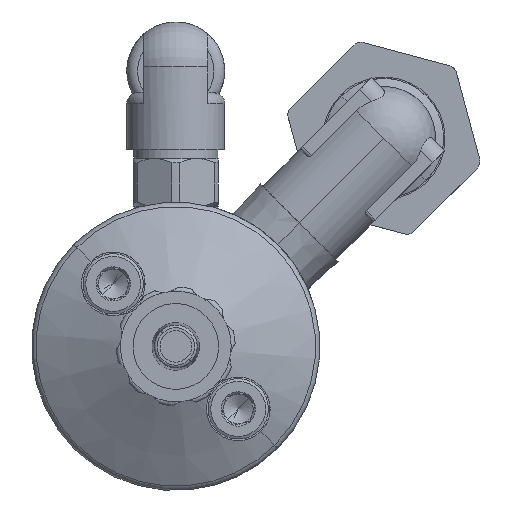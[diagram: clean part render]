
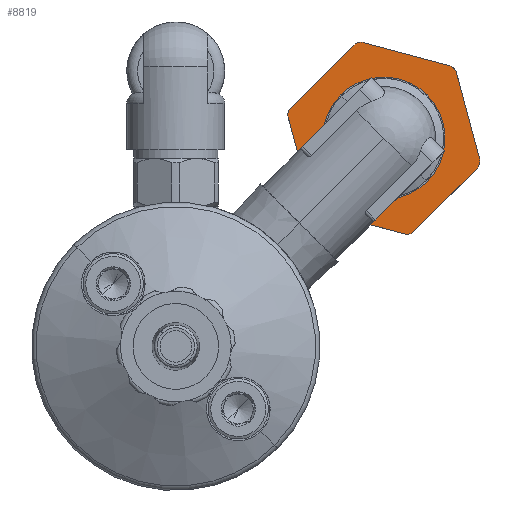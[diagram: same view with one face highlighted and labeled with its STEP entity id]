
A CAD part, front view. The second image highlights one B-rep face of the part: STEP entity #8819.
In plain terms, the highlighted planar face has unit normal (0, -1, 0).
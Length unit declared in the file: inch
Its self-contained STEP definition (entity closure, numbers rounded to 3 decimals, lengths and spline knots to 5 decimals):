
#714 = ORIENTED_EDGE ( 'NONE', *, *, #77586, .T. ) ;
#1691 = CIRCLE ( 'NONE', #79072, 0.035 ) ;
#2119 = DIRECTION ( 'NONE',  ( 0.259, 0., -0.966 ) ) ;
#2822 = CARTESIAN_POINT ( 'NONE',  ( 0.86072, 0.071, 0.40818 ) ) ;
#3400 = CARTESIAN_POINT ( 'NONE',  ( 0.60599, 0.071, 0.92419 ) ) ;
#3852 = CARTESIAN_POINT ( 'NONE',  ( 0.87501, 0.071, 0.42246 ) ) ;
#4194 = LINE ( 'NONE', #59620, #15742 ) ;
#4270 = EDGE_CURVE ( 'NONE', #8126, #41748, #87543, .T. ) ;
#4294 = FACE_BOUND ( 'NONE', #7531, .T. ) ;
#4333 = VERTEX_POINT ( 'NONE', #29007 ) ;
#4371 = DIRECTION ( 'NONE',  ( 0., -1., 0. ) ) ;
#7183 = VERTEX_POINT ( 'NONE', #3852 ) ;
#7268 = VERTEX_POINT ( 'NONE', #27571 ) ;
#7531 = EDGE_LOOP ( 'NONE', ( #29177, #87678 ) ) ;
#8126 = VERTEX_POINT ( 'NONE', #17561 ) ;
#8159 = DIRECTION ( 'NONE',  ( 0.707, 0., -0.707 ) ) ;
#8387 = LINE ( 'NONE', #21885, #14211 ) ;
#8819 = ADVANCED_FACE ( 'NONE', ( #4294, #19643 ), #60161, .T. ) ;
#10789 = EDGE_CURVE ( 'NONE', #81312, #7183, #27924, .T. ) ;
#11030 = CARTESIAN_POINT ( 'NONE',  ( 0.76509, 0.071, 0.76509 ) ) ;
#14211 = VECTOR ( 'NONE', #49842, 39.37008 ) ;
#15742 = VECTOR ( 'NONE', #61000, 39.37008 ) ;
#16628 = CARTESIAN_POINT ( 'NONE',  ( 0.42246, 0.071, 0.87501 ) ) ;
#17561 = CARTESIAN_POINT ( 'NONE',  ( 0.49858, 0.071, 0.52333 ) ) ;
#17910 = DIRECTION ( 'NONE',  ( 0., -1., 0. ) ) ;
#18039 = DIRECTION ( 'NONE',  ( -0.259, 0., 0.966 ) ) ;
#18966 = DIRECTION ( 'NONE',  ( 0.707, 0., -0.707 ) ) ;
#19037 = VERTEX_POINT ( 'NONE', #85716 ) ;
#19361 = VERTEX_POINT ( 'NONE', #3400 ) ;
#19427 = CARTESIAN_POINT ( 'NONE',  ( 0.67991, 0.071, 1.08297 ) ) ;
#19643 = FACE_OUTER_BOUND ( 'NONE', #81469, .T. ) ;
#20058 = EDGE_CURVE ( 'NONE', #19037, #83638, #72954, .T. ) ;
#20259 = CARTESIAN_POINT ( 'NONE',  ( 1.11677, 0.071, 0.68897 ) ) ;
#20905 = CARTESIAN_POINT ( 'NONE',  ( 0.68897, 0.071, 1.11677 ) ) ;
#21885 = CARTESIAN_POINT ( 'NONE',  ( 0.40818, 0.071, 0.86072 ) ) ;
#22277 = ORIENTED_EDGE ( 'NONE', *, *, #80837, .F. ) ;
#23783 = CIRCLE ( 'NONE', #90865, 0.225 ) ;
#25495 = ORIENTED_EDGE ( 'NONE', *, *, #20058, .F. ) ;
#25909 = CARTESIAN_POINT ( 'NONE',  ( 0.50381, 0.071, 0.50381 ) ) ;
#27571 = CARTESIAN_POINT ( 'NONE',  ( 0.65517, 0.071, 1.10771 ) ) ;
#27924 = LINE ( 'NONE', #36305, #52644 ) ;
#29007 = CARTESIAN_POINT ( 'NONE',  ( 1.00685, 0.071, 1.0316 ) ) ;
#29177 = ORIENTED_EDGE ( 'NONE', *, *, #90729, .F. ) ;
#29460 = DIRECTION ( 'NONE',  ( 0., -1., 0. ) ) ;
#29572 = ORIENTED_EDGE ( 'NONE', *, *, #41329, .T. ) ;
#31218 = ORIENTED_EDGE ( 'NONE', *, *, #48007, .T. ) ;
#32308 = DIRECTION ( 'NONE',  ( 0.707, 0., -0.707 ) ) ;
#32772 = DIRECTION ( 'NONE',  ( 0.707, 0., -0.707 ) ) ;
#35217 = ORIENTED_EDGE ( 'NONE', *, *, #61576, .T. ) ;
#35396 = DIRECTION ( 'NONE',  ( -0.707, 0., -0.707 ) ) ;
#35453 = CARTESIAN_POINT ( 'NONE',  ( 0.41341, 0.071, 0.84121 ) ) ;
#36305 = CARTESIAN_POINT ( 'NONE',  ( 1.122, 0.071, 0.66945 ) ) ;
#37532 = CARTESIAN_POINT ( 'NONE',  ( 1.02637, 0.071, 1.02637 ) ) ;
#38530 = ORIENTED_EDGE ( 'NONE', *, *, #47407, .F. ) ;
#40902 = EDGE_CURVE ( 'NONE', #55769, #7268, #8387, .T. ) ;
#41329 = EDGE_CURVE ( 'NONE', #19037, #4333, #82666, .T. ) ;
#41495 = VECTOR ( 'NONE', #58716, 39.37008 ) ;
#41748 = VERTEX_POINT ( 'NONE', #43724 ) ;
#43724 = CARTESIAN_POINT ( 'NONE',  ( 0.52333, 0.071, 0.49858 ) ) ;
#45203 = DIRECTION ( 'NONE',  ( 0.707, 0., -0.707 ) ) ;
#45663 = CARTESIAN_POINT ( 'NONE',  ( 0.99779, 0.071, 0.99779 ) ) ;
#46896 = DIRECTION ( 'NONE',  ( 0., -1., 0. ) ) ;
#47375 = LINE ( 'NONE', #25909, #70645 ) ;
#47407 = EDGE_CURVE ( 'NONE', #48522, #41748, #52625, .T. ) ;
#47830 = VERTEX_POINT ( 'NONE', #35453 ) ;
#48007 = EDGE_CURVE ( 'NONE', #55769, #47830, #89059, .T. ) ;
#48025 = AXIS2_PLACEMENT_3D ( 'NONE', #74660, #81669, #82581 ) ;
#48522 = VERTEX_POINT ( 'NONE', #51233 ) ;
#48928 = ORIENTED_EDGE ( 'NONE', *, *, #91463, .T. ) ;
#49842 = DIRECTION ( 'NONE',  ( 0.707, 0., 0.707 ) ) ;
#49960 = DIRECTION ( 'NONE',  ( 0.707, 0., -0.707 ) ) ;
#50270 = AXIS2_PLACEMENT_3D ( 'NONE', #65434, #78553, #8159 ) ;
#50643 = CIRCLE ( 'NONE', #58126, 0.035 ) ;
#51233 = CARTESIAN_POINT ( 'NONE',  ( 0.84121, 0.071, 0.41341 ) ) ;
#51731 = CIRCLE ( 'NONE', #50270, 0.035 ) ;
#52625 = LINE ( 'NONE', #2822, #41495 ) ;
#52644 = VECTOR ( 'NONE', #35396, 39.37008 ) ;
#52723 = VECTOR ( 'NONE', #2119, 39.37008 ) ;
#52807 = AXIS2_PLACEMENT_3D ( 'NONE', #45663, #81561, #45203 ) ;
#55103 = ORIENTED_EDGE ( 'NONE', *, *, #4270, .T. ) ;
#55769 = VERTEX_POINT ( 'NONE', #16628 ) ;
#56304 = DIRECTION ( 'NONE',  ( 0., -1., 0. ) ) ;
#58126 = AXIS2_PLACEMENT_3D ( 'NONE', #19427, #62263, #18966 ) ;
#58716 = DIRECTION ( 'NONE',  ( -0.966, 0., 0.259 ) ) ;
#59620 = CARTESIAN_POINT ( 'NONE',  ( 0.66945, 0.071, 1.122 ) ) ;
#60161 = PLANE ( 'NONE',  #48025 ) ;
#61000 = DIRECTION ( 'NONE',  ( 0.966, 0., -0.259 ) ) ;
#61576 = EDGE_CURVE ( 'NONE', #81312, #83638, #1691, .T. ) ;
#62205 = AXIS2_PLACEMENT_3D ( 'NONE', #85898, #29460, #49960 ) ;
#62263 = DIRECTION ( 'NONE',  ( 0., -1., 0. ) ) ;
#63341 = CIRCLE ( 'NONE', #70824, 0.225 ) ;
#65434 = CARTESIAN_POINT ( 'NONE',  ( 0.85026, 0.071, 0.44721 ) ) ;
#67505 = CARTESIAN_POINT ( 'NONE',  ( 1.10771, 0.071, 0.65517 ) ) ;
#68190 = CARTESIAN_POINT ( 'NONE',  ( 1.08297, 0.071, 0.67991 ) ) ;
#70645 = VECTOR ( 'NONE', #18039, 39.37008 ) ;
#70790 = DIRECTION ( 'NONE',  ( 0.707, 0., -0.707 ) ) ;
#70824 = AXIS2_PLACEMENT_3D ( 'NONE', #11030, #46896, #75327 ) ;
#71268 = EDGE_CURVE ( 'NONE', #19361, #76161, #63341, .T. ) ;
#72954 = LINE ( 'NONE', #37532, #52723 ) ;
#74660 = CARTESIAN_POINT ( 'NONE',  ( 0.66945, 0.071, 1.122 ) ) ;
#75127 = ORIENTED_EDGE ( 'NONE', *, *, #40902, .F. ) ;
#75327 = DIRECTION ( 'NONE',  ( 0.707, 0., -0.707 ) ) ;
#76161 = VERTEX_POINT ( 'NONE', #79153 ) ;
#77586 = EDGE_CURVE ( 'NONE', #48522, #7183, #51731, .T. ) ;
#78553 = DIRECTION ( 'NONE',  ( 0., -1., 0. ) ) ;
#79072 = AXIS2_PLACEMENT_3D ( 'NONE', #68190, #4371, #32772 ) ;
#79153 = CARTESIAN_POINT ( 'NONE',  ( 0.92419, 0.071, 0.60599 ) ) ;
#80136 = AXIS2_PLACEMENT_3D ( 'NONE', #89234, #17910, #32308 ) ;
#80837 = EDGE_CURVE ( 'NONE', #8126, #47830, #47375, .T. ) ;
#81312 = VERTEX_POINT ( 'NONE', #67505 ) ;
#81469 = EDGE_LOOP ( 'NONE', ( #82798, #48928, #75127, #31218, #22277, #55103, #38530, #714, #87284, #35217, #25495, #29572 ) ) ;
#81561 = DIRECTION ( 'NONE',  ( 0., -1., 0. ) ) ;
#81669 = DIRECTION ( 'NONE',  ( 0., -1., 0. ) ) ;
#82581 = DIRECTION ( 'NONE',  ( 0.707, 0., -0.707 ) ) ;
#82666 = CIRCLE ( 'NONE', #52807, 0.035 ) ;
#82798 = ORIENTED_EDGE ( 'NONE', *, *, #85529, .F. ) ;
#83405 = CARTESIAN_POINT ( 'NONE',  ( 0.76509, 0.071, 0.76509 ) ) ;
#83638 = VERTEX_POINT ( 'NONE', #20259 ) ;
#85529 = EDGE_CURVE ( 'NONE', #90732, #4333, #4194, .T. ) ;
#85716 = CARTESIAN_POINT ( 'NONE',  ( 1.0316, 0.071, 1.00685 ) ) ;
#85898 = CARTESIAN_POINT ( 'NONE',  ( 0.53239, 0.071, 0.53239 ) ) ;
#87284 = ORIENTED_EDGE ( 'NONE', *, *, #10789, .F. ) ;
#87543 = CIRCLE ( 'NONE', #62205, 0.035 ) ;
#87678 = ORIENTED_EDGE ( 'NONE', *, *, #71268, .F. ) ;
#89059 = CIRCLE ( 'NONE', #80136, 0.035 ) ;
#89234 = CARTESIAN_POINT ( 'NONE',  ( 0.44721, 0.071, 0.85026 ) ) ;
#90729 = EDGE_CURVE ( 'NONE', #76161, #19361, #23783, .T. ) ;
#90732 = VERTEX_POINT ( 'NONE', #20905 ) ;
#90865 = AXIS2_PLACEMENT_3D ( 'NONE', #83405, #56304, #70790 ) ;
#91463 = EDGE_CURVE ( 'NONE', #90732, #7268, #50643, .T. ) ;
